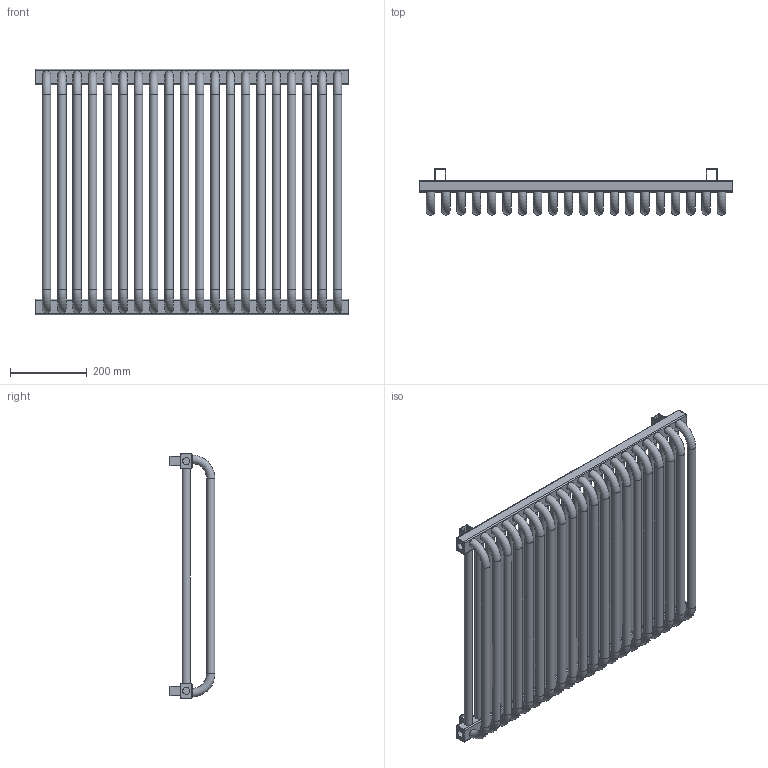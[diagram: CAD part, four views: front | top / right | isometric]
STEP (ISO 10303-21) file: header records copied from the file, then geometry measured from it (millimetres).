
FILE_DESCRIPTION((''),'2;1');
FILE_NAME('Z:\R\G\P\RGPH03 - Grzejnik Dobus\Work\Inventor\Marketing\STEP\DF-64-82-L6.stp','2012-07-25T11:43:33',('PioRo'),(''),'Autodesk Inventor 2012','Autodesk Inventor 2012','');
FILE_SCHEMA(('CONFIG_CONTROL_DESIGN'));
Length unit declared in the file: millimetre
Products named in the file (1): Część1
Bounding box: 820 x 120 x 640 mm (x, y, z)
Volume: 11271452.8 mm3; surface area: 1907553.1 mm2
Topology: 5 solids, 5 shells, 230 faces, 573 edges, 358 vertices
Faces by surface type: cylinder 95, plane 79, torus 56
Full cylindrical faces by diameter (mm): 0.1 x4, 18.631 x3, 22 x40
Entity records: 9333 total; most frequent: CARTESIAN_POINT 3675, DIRECTION 1114, ORIENTED_EDGE 972, EDGE_CURVE 486, AXIS2_PLACEMENT_3D 437, EDGE_LOOP 408, VERTEX_POINT 358, VECTOR 240
